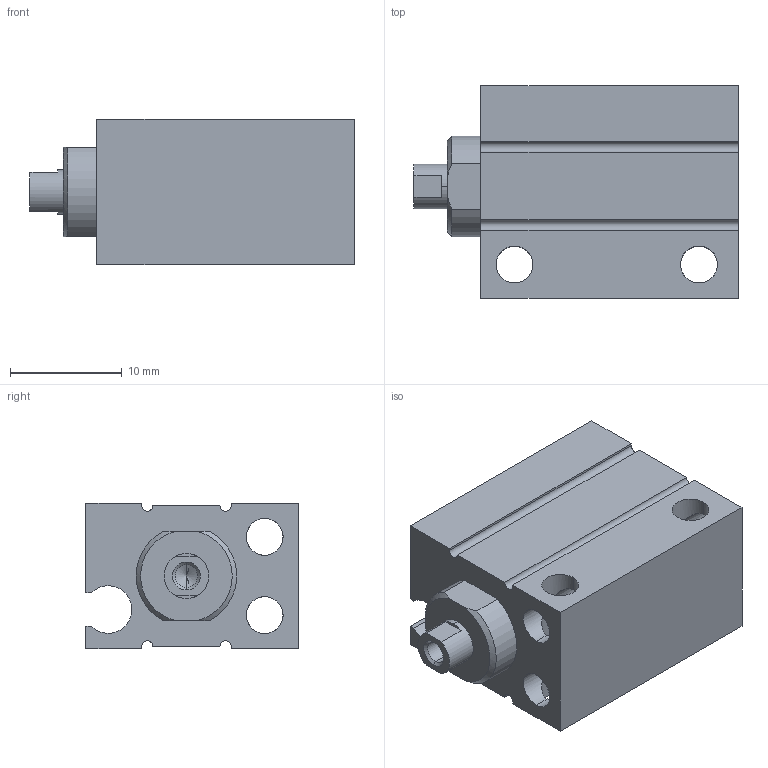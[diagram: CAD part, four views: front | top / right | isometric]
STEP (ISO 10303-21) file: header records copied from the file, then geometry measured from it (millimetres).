
FILE_DESCRIPTION (( 'STEP AP203' ), '1' );
FILE_NAME ('CLJB6-10.STEP', '2020-07-30T18:42:40', ( '' ), ( '' ), 'SwSTEP 2.0', 'SolidWorks 2019', '' );
FILE_SCHEMA (( 'CONFIG_CONTROL_DESIGN' ));
Length unit declared in the file: millimetre
Products named in the file (1): CLJB6-10
Bounding box: 29 x 19 x 13 mm (x, y, z)
Volume: 4727.4 mm3; surface area: 3515.4 mm2
Topology: 2 solids, 2 shells, 92 faces, 240 edges, 145 vertices
Faces by surface type: cylinder 49, plane 29, cone 14
Entity records: 2863 total; most frequent: CARTESIAN_POINT 580, ORIENTED_EDGE 468, DIRECTION 462, EDGE_CURVE 234, AXIS2_PLACEMENT_3D 171, VERTEX_POINT 145, LINE 120, VECTOR 120
